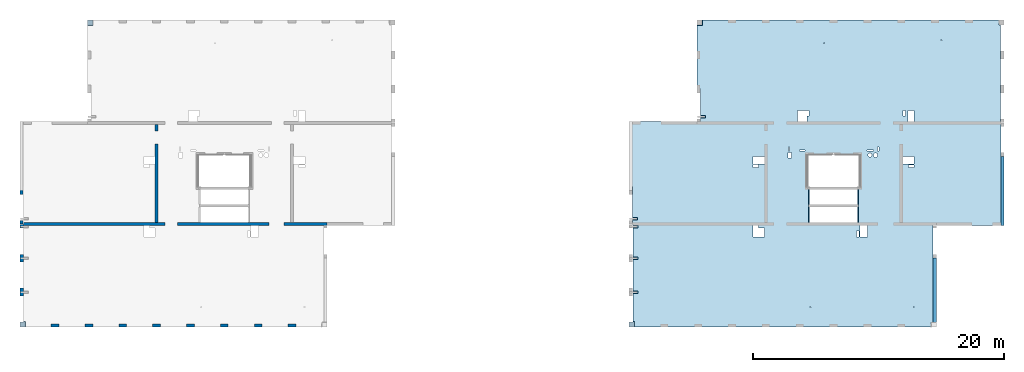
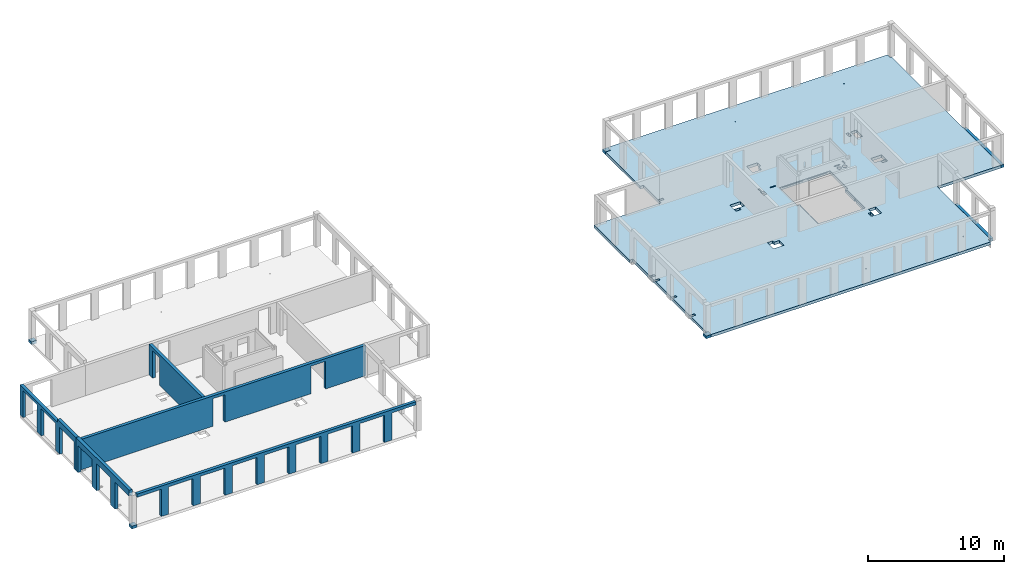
# One storey, part 2 of 8: 7 slabs, 5 walls, 55 openings.
"""IFC2X3 building model written with IfcOpenShell, lengths in millimetres."""

from ifc_helpers import new_model, entity, si_unit, converted_unit, derived_unit, direction, frame, frame_2d, origin, origin_2d_with_axis, place, context, subcontext, project, spatial, polyline, rectangle, circle, outline, extrude, material, layer, layer_set, layer_usage, type_object, element, save


model = new_model("IFC2X3")

# Units and contexts
model_context = context("Model", 3, precision=0.01, world=origin(), true_north=direction((6.12303176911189e-17, 1.0)))
body_context = subcontext(model_context, "Body", "Model", "MODEL_VIEW")
ifc_project = project(units=[si_unit("LENGTHUNIT", "METRE", prefix="MILLI"), si_unit("AREAUNIT", "SQUARE_METRE"), si_unit("VOLUMEUNIT", "CUBIC_METRE"), converted_unit("PLANEANGLEUNIT", "DEGREE", entity("IfcRatioMeasure", 0.0174532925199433), si_unit("PLANEANGLEUNIT", "RADIAN"), dimensions=[0, 0, 0, 0, 0, 0, 0]), si_unit("MASSUNIT", "GRAM", prefix="KILO"), derived_unit("MASSDENSITYUNIT", [(si_unit("MASSUNIT", "GRAM", prefix="KILO"), 1), (si_unit("LENGTHUNIT", "METRE"), -3)]), si_unit("TIMEUNIT", "SECOND"), si_unit("FREQUENCYUNIT", "HERTZ"), si_unit("THERMODYNAMICTEMPERATUREUNIT", "DEGREE_CELSIUS"), derived_unit("THERMALTRANSMITTANCEUNIT", [(si_unit("MASSUNIT", "GRAM", prefix="KILO"), 1), (si_unit("THERMODYNAMICTEMPERATUREUNIT", "KELVIN"), -1), (si_unit("TIMEUNIT", "SECOND"), -3)]), derived_unit("VOLUMETRICFLOWRATEUNIT", [(si_unit("LENGTHUNIT", "METRE"), 3), (si_unit("TIMEUNIT", "SECOND"), -1)]), si_unit("ELECTRICCURRENTUNIT", "AMPERE"), si_unit("ELECTRICVOLTAGEUNIT", "VOLT"), si_unit("POWERUNIT", "WATT"), si_unit("FORCEUNIT", "NEWTON", prefix="KILO"), si_unit("ILLUMINANCEUNIT", "LUX"), si_unit("LUMINOUSFLUXUNIT", "LUMEN"), si_unit("LUMINOUSINTENSITYUNIT", "CANDELA"), derived_unit("USERDEFINED", [(si_unit("MASSUNIT", "GRAM", prefix="KILO"), -1), (si_unit("LENGTHUNIT", "METRE"), -2), (si_unit("TIMEUNIT", "SECOND"), 3), (si_unit("LUMINOUSFLUXUNIT", "LUMEN"), 1)]), derived_unit("LINEARVELOCITYUNIT", [(si_unit("LENGTHUNIT", "METRE"), 1), (si_unit("TIMEUNIT", "SECOND"), -1)]), si_unit("PRESSUREUNIT", "PASCAL"), derived_unit("USERDEFINED", [(si_unit("LENGTHUNIT", "METRE"), -2), (si_unit("MASSUNIT", "GRAM", prefix="KILO"), 1), (si_unit("TIMEUNIT", "SECOND"), -2)])], contexts=[model_context])

# Site, building, storey
site_placement = place(None, origin())
site = spatial("IfcSite", under=ifc_project, at=site_placement, Name="Default", CompositionType="ELEMENT")
building_placement = place(site_placement, origin())
building = spatial("IfcBuilding", under=site, at=building_placement, Name="niet gebruiken", CompositionType="ELEMENT")
storey_placement = place(building_placement, frame((0.0, 0.0, 39330.0)))
storey = spatial("IfcBuildingStorey", under=building, at=storey_placement, Name="13 dertiende verdieping", CompositionType="ELEMENT", Elevation=39330.0)

# Slab, openings
ifc_material_1 = material(Name="NLRS_f2_beton ihwg")
ifc_layer_1 = layer(ifc_material_1, 250.0)
ifc_layer_set_1 = layer_set([ifc_layer_1], Name="Floor:NLRS_23.21_FL_beton ihwg d=250_gen")
ifc_layer_usage_1 = layer_usage(ifc_layer_set_1, "AXIS3", "POSITIVE", 0.0)
slab_1_placement = place(storey_placement, frame((75750.0, 28756.0, -340.0)))
slab_1 = element("IfcSlab", 1, at=slab_1_placement, inside=storey, material=ifc_layer_usage_1, Name="Floor:NLRS_23.21_FL_beton ihwg d=250_gen", ObjectType="Floor:NLRS_23.21_FL_beton ihwg d=250_gen", PredefinedType="FLOOR", context=body_context, shape_type="SweptSolid", body=[
    extrude(outline(polyline([(9119.99996701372, 12250.0), (-14540.0, 12250.0), (-14540.0, 11840.0), (-14680.0, 11840.0), (-14680.0, 4060.0), (-14700.0, 4060.0), (-14700.0, -4150.0), (-9300.0, -4150.0), (-9300.0, -11890.0), (-9140.0, -11890.0), (-9140.0, -12250.0), (14520.0, -12250.0), (14520.0, -11820.0), (14660.0, -11820.0), (14660.0, -4060.0), (14680.0, -4060.0), (14680.0, -1040.0), (14950.0, -1040.0), (14950.0, 4150.0), (9280.0, 4150.0), (9280.0, 6750.0), (9550.0, 6750.0), (9550.0, 11820.0), (9119.99996701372, 11820.0), (9119.99996701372, 12250.0)])), frame((14700.0, 12250.0, 250.0), z_axis=(0.0, 0.0, -1.0), x_axis=(-1.0, 0.0, 0.0)), (0.0, 0.0, 1.0), 249.999999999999),
])
opening_1_placement = place(storey_placement, frame((75750.0, 28756.0, -340.0)))
element("IfcOpeningElement", 2, at=opening_1_placement, cuts=slab_1, ObjectType="Opening", context=body_context, shape_type="SweptSolid", body=[
    extrude(circle(Radius=37.5, at=frame_2d((-7750.0, -10650.0), x_axis=(1.0, 0.0))), frame((14700.0, 12250.0, 250.0), z_axis=(0.0, 0.0, -1.0), x_axis=(-1.0, 0.0, 0.0)), (0.0, 0.0, 1.0), 249.999999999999),
])
opening_2_placement = place(storey_placement, frame((75750.0, 28756.0, -340.0)))
element("IfcOpeningElement", 3, at=opening_2_placement, cuts=slab_1, ObjectType="Opening", context=body_context, shape_type="SweptSolid", body=[
    extrude(circle(Radius=37.5, at=frame_2d((-9950.0, 10650.0), x_axis=(1.0, 0.0))), frame((14700.0, 12250.0, 250.0), z_axis=(0.0, 0.0, -1.0), x_axis=(-1.0, 0.0, 0.0)), (0.0, 0.0, 1.0), 249.999999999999),
])
opening_3_placement = place(storey_placement, frame((75750.0, 28756.0, -340.0)))
element("IfcOpeningElement", 4, at=opening_3_placement, cuts=slab_1, ObjectType="Opening", context=body_context, shape_type="SweptSolid", body=[
    extrude(circle(Radius=37.5, at=frame_2d((-600.0, 10400.0), x_axis=(1.0, 0.0))), frame((14700.0, 12250.0, 250.0), z_axis=(0.0, 0.0, -1.0), x_axis=(-1.0, 0.0, 0.0)), (0.0, 0.0, 1.0), 249.999999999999),
])
opening_4_placement = place(storey_placement, frame((75750.0, 28756.0, -340.0)))
element("IfcOpeningElement", 5, at=opening_4_placement, cuts=slab_1, ObjectType="Opening", context=body_context, shape_type="SweptSolid", body=[
    extrude(circle(Radius=37.5, at=frame_2d((500.0, -10650.0), x_axis=(1.0, 0.0))), frame((14700.0, 12250.0, 250.0), z_axis=(0.0, 0.0, -1.0), x_axis=(-1.0, 0.0, 0.0)), (0.0, 0.0, 1.0), 249.999999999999),
])
opening_5_placement = place(slab_1_placement, origin())
element("IfcOpeningElement", 6, at=opening_5_placement, cuts=slab_1, ObjectType="Opening", context=body_context, shape_type="SweptSolid", body=[
    extrude(rectangle(XDim=109.999999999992, YDim=1220.0, at=origin_2d_with_axis()), frame((14094.9999671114, 10380.0, 210.0)), (0.0, 0.0, 1.0), 39.9999999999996),
])
opening_6_placement = place(slab_1_placement, origin())
element("IfcOpeningElement", 7, at=opening_6_placement, cuts=slab_1, ObjectType="Opening", context=body_context, shape_type="SweptSolid", body=[
    extrude(rectangle(XDim=109.999999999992, YDim=1220.0, at=origin_2d_with_axis()), frame((18005.0, 10380.0, 210.0)), (0.0, 0.0, 1.0), 39.9999999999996),
])
opening_7_placement = place(slab_1_placement, origin())
element("IfcOpeningElement", 8, at=opening_7_placement, cuts=slab_1, ObjectType="Opening", context=body_context, shape_type="SweptSolid", body=[
    extrude(rectangle(XDim=109.999999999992, YDim=1220.0, at=origin_2d_with_axis()), frame((18005.0, 8960.0, 210.0)), (0.0, 0.0, 1.0), 39.9999999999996),
])
opening_8_placement = place(slab_1_placement, origin())
element("IfcOpeningElement", 9, at=opening_8_placement, cuts=slab_1, ObjectType="Opening", context=body_context, shape_type="SweptSolid", body=[
    extrude(rectangle(XDim=109.999999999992, YDim=1220.0, at=origin_2d_with_axis()), frame((14094.9999671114, 8960.0, 210.0)), (0.0, 0.0, 1.0), 39.9999999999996),
])
opening_9_placement = place(slab_1_placement, origin())
element("IfcOpeningElement", 10, at=opening_9_placement, cuts=slab_1, ObjectType="Opening", context=body_context, shape_type="SweptSolid", body=[
    extrude(rectangle(XDim=400.000000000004, YDim=200.000000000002, at=origin_2d_with_axis()), frame((220.0, 8630.0, 220.0)), (0.0, 0.0, 1.0), 30.0000000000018),
])
opening_10_placement = place(slab_1_placement, origin())
element("IfcOpeningElement", 11, at=opening_10_placement, cuts=slab_1, ObjectType="Opening", context=body_context, shape_type="SweptSolid", body=[
    extrude(rectangle(XDim=200.000000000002, YDim=400.000000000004, at=origin_2d_with_axis()), frame((240.0, 8000.0, 220.0), z_axis=(0.0, 0.0, 1.0), x_axis=(0.0, -1.0, 0.0)), (0.0, 0.0, 1.0), 30.0000000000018),
])
opening_11_placement = place(slab_1_placement, origin())
element("IfcOpeningElement", 12, at=opening_11_placement, cuts=slab_1, ObjectType="Opening", context=body_context, shape_type="SweptSolid", body=[
    extrude(rectangle(XDim=200.000000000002, YDim=400.000000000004, at=origin_2d_with_axis()), frame((240.0, 5500.0, 220.0), z_axis=(0.0, 0.0, 1.0), x_axis=(0.0, -1.0, 0.0)), (0.0, 0.0, 1.0), 30.0000000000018),
])
opening_12_placement = place(slab_1_placement, origin())
element("IfcOpeningElement", 13, at=opening_12_placement, cuts=slab_1, ObjectType="Opening", context=body_context, shape_type="SweptSolid", body=[
    extrude(rectangle(XDim=200.000000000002, YDim=400.000000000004, at=origin_2d_with_axis()), frame((240.0, 2800.0, 220.0), z_axis=(0.0, 0.0, 1.0), x_axis=(0.0, -1.0, 0.0)), (0.0, 0.0, 1.0), 30.0000000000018),
])
opening_13_placement = place(slab_1_placement, origin())
element("IfcOpeningElement", 14, at=opening_13_placement, cuts=slab_1, ObjectType="Opening", context=body_context, shape_type="SweptSolid", body=[
    extrude(rectangle(XDim=399.999999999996, YDim=199.999999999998, at=origin_2d_with_axis()), frame((5620.0, 16765.0, 220.0)), (0.0, 0.0, 1.0), 30.0000000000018),
])
opening_14_placement = place(slab_1_placement, origin())
element("IfcOpeningElement", 15, at=opening_14_placement, cuts=slab_1, ObjectType="Opening", context=body_context, shape_type="SweptSolid", body=[
    extrude(rectangle(XDim=900.000000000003, YDim=730.000000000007, at=origin_2d_with_axis()), frame((13550.0, 16850.0, 0.0), z_axis=(0.0, 0.0, 1.0), x_axis=(0.0, 1.0, 0.0)), (0.0, 0.0, 1.0), 249.999999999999),
])
opening_15_placement = place(slab_1_placement, origin())
element("IfcOpeningElement", 16, at=opening_15_placement, cuts=slab_1, ObjectType="Opening", context=body_context, shape_type="SweptSolid", body=[
    extrude(rectangle(XDim=169.999999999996, YDim=450.000000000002, at=origin_2d_with_axis()), frame((14000.0, 17075.0, 0.0), z_axis=(0.0, 0.0, 1.0), x_axis=(-1.0, 0.0, 0.0)), (0.0, 0.0, 1.0), 249.999999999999),
])
opening_16_placement = place(slab_1_placement, origin())
element("IfcOpeningElement", 17, at=opening_16_placement, cuts=slab_1, ObjectType="Opening", context=body_context, shape_type="SweptSolid", body=[
    extrude(rectangle(XDim=900.000000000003, YDim=700.000000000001, at=origin_2d_with_axis()), frame((10075.0, 7550.0, 0.0), z_axis=(0.0, 0.0, 1.0), x_axis=(-1.0, 0.0, 0.0)), (0.0, 0.0, 1.0), 249.999999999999),
])
opening_17_placement = place(slab_1_placement, origin())
element("IfcOpeningElement", 18, at=opening_17_placement, cuts=slab_1, ObjectType="Opening", context=body_context, shape_type="SweptSolid", body=[
    extrude(rectangle(XDim=200.000000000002, YDim=450.000000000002, at=origin_2d_with_axis()), frame((9850.0, 8000.0, 0.0), z_axis=(0.0, 0.0, 1.0), x_axis=(0.0, -1.0, 0.0)), (0.0, 0.0, 1.0), 249.999999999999),
])
opening_18_placement = place(slab_1_placement, origin())
element("IfcOpeningElement", 19, at=opening_18_placement, cuts=slab_1, ObjectType="Opening", context=body_context, shape_type="SweptSolid", body=[
    extrude(rectangle(XDim=900.000000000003, YDim=600.000000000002, at=origin_2d_with_axis()), frame((10075.0, 13330.0, 0.0), z_axis=(0.0, 0.0, 1.0), x_axis=(-1.0, 0.0, 0.0)), (0.0, 0.0, 1.0), 249.999999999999),
])
opening_19_placement = place(slab_1_placement, origin())
element("IfcOpeningElement", 20, at=opening_19_placement, cuts=slab_1, ObjectType="Opening", context=body_context, shape_type="SweptSolid", body=[
    extrude(rectangle(XDim=900.000000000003, YDim=500.000000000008, at=origin_2d_with_axis()), frame((22225.0, 16850.0, 0.0), z_axis=(0.0, 0.0, 1.0), x_axis=(0.0, 1.0, 0.0)), (0.0, 0.0, 1.0), 249.999999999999),
])
opening_20_placement = place(slab_1_placement, origin())
element("IfcOpeningElement", 21, at=opening_20_placement, cuts=slab_1, ObjectType="Opening", context=body_context, shape_type="SweptSolid", body=[
    extrude(rectangle(XDim=899.999999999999, YDim=600.000000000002, at=origin_2d_with_axis()), frame((18479.9818996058, 7650.0, 0.0), z_axis=(0.0, 0.0, 1.0), x_axis=(0.0, 1.0, 0.0)), (0.0, 0.0, 1.0), 249.999999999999),
])
opening_21_placement = place(slab_1_placement, origin())
element("IfcOpeningElement", 22, at=opening_21_placement, cuts=slab_1, ObjectType="Opening", context=body_context, shape_type="SweptSolid", body=[
    extrude(rectangle(XDim=900.000000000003, YDim=600.000000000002, at=origin_2d_with_axis()), frame((22025.0, 13330.0, 0.0), z_axis=(0.0, 0.0, 1.0), x_axis=(-1.0, 0.0, 0.0)), (0.0, 0.0, 1.0), 249.999999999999),
])
opening_22_placement = place(slab_1_placement, origin())
element("IfcOpeningElement", 23, at=opening_22_placement, cuts=slab_1, ObjectType="Opening", context=body_context, shape_type="SweptSolid", body=[
    extrude(rectangle(XDim=1760.00000000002, YDim=23.0000000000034, at=origin_2d_with_axis()), frame((14994.9998491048, 13751.5, 180.0)), (0.0, 0.0, 1.0), 40.0000000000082),
])
opening_23_placement = place(slab_1_placement, origin())
element("IfcOpeningElement", 24, at=opening_23_placement, cuts=slab_1, ObjectType="Opening", context=body_context, shape_type="SweptSolid", body=[
    extrude(rectangle(XDim=1760.0, YDim=23.0000000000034, at=origin_2d_with_axis()), frame((17104.999849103, 13751.5, 180.0)), (0.0, 0.0, 1.0), 40.0000000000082),
])
opening_24_placement = place(slab_1_placement, origin())
element("IfcOpeningElement", 25, at=opening_24_placement, cuts=slab_1, ObjectType="Opening", context=body_context, shape_type="SweptSolid", body=[
    extrude(rectangle(XDim=99.9999999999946, YDim=340.000000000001, at=origin_2d_with_axis()), frame((19615.0, 14210.0, 0.0), z_axis=(0.0, 0.0, 1.0), x_axis=(-1.0, 0.0, 0.0)), (0.0, 0.0, 1.0), 249.999999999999),
])
opening_25_placement = place(slab_1_placement, origin())
element("IfcOpeningElement", 26, at=opening_25_placement, cuts=slab_1, ObjectType="Opening", context=body_context, shape_type="SweptSolid", body=[
    extrude(rectangle(XDim=100.000000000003, YDim=490.00000000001, at=origin_2d_with_axis()), frame((18975.0, 14090.0, 0.0), z_axis=(0.0, 0.0, 1.0), x_axis=(0.0, -1.0, 0.0)), (0.0, 0.0, 1.0), 249.999999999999),
])
opening_26_placement = place(slab_1_placement, origin())
element("IfcOpeningElement", 27, at=opening_26_placement, cuts=slab_1, ObjectType="Opening", context=body_context, shape_type="SweptSolid", body=[
    extrude(rectangle(XDim=100.000000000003, YDim=440.000000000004, at=origin_2d_with_axis()), frame((13555.0, 14090.0, 0.0), z_axis=(0.0, 0.0, 1.0), x_axis=(0.0, -1.0, 0.0)), (0.0, 0.0, 1.0), 249.999999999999),
])
opening_27_placement = place(slab_1_placement, origin())
element("IfcOpeningElement", 28, at=opening_27_placement, cuts=slab_1, ObjectType="Opening", context=body_context, shape_type="SweptSolid", body=[
    extrude(rectangle(XDim=99.9999999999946, YDim=340.000000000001, at=origin_2d_with_axis()), frame((12505.0, 14210.0, 0.0), z_axis=(0.0, 0.0, 1.0), x_axis=(-1.0, 0.0, 0.0)), (0.0, 0.0, 1.0), 249.999999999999),
])
opening_28_placement = place(slab_1_placement, origin())
element("IfcOpeningElement", 29, at=opening_28_placement, cuts=slab_1, ObjectType="Opening", context=body_context, shape_type="SweptSolid", body=[
    extrude(rectangle(XDim=230.0, YDim=450.000000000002, at=origin_2d_with_axis()), frame((9850.00008659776, 12845.0002270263, 0.0), z_axis=(0.0, 0.0, 1.0), x_axis=(0.0, -1.0, 0.0)), (0.0, 0.0, 1.0), 249.999999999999),
])
opening_29_placement = place(slab_1_placement, origin())
element("IfcOpeningElement", 30, at=opening_29_placement, cuts=slab_1, ObjectType="Opening", context=body_context, shape_type="SweptSolid", body=[
    extrude(rectangle(XDim=220.000000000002, YDim=450.000000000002, at=origin_2d_with_axis()), frame((21685.0, 17075.0, 0.0), z_axis=(0.0, 0.0, 1.0), x_axis=(-1.0, 0.0, 0.0)), (0.0, 0.0, 1.0), 249.999999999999),
])
opening_30_placement = place(slab_1_placement, origin())
element("IfcOpeningElement", 31, at=opening_30_placement, cuts=slab_1, ObjectType="Opening", context=body_context, shape_type="SweptSolid", body=[
    extrude(rectangle(XDim=220.000000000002, YDim=450.000000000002, at=origin_2d_with_axis()), frame((22250.0, 12840.0, 0.0), z_axis=(0.0, 0.0, 1.0), x_axis=(0.0, -1.0, 0.0)), (0.0, 0.0, 1.0), 249.999999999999),
])
opening_31_placement = place(slab_1_placement, origin())
element("IfcOpeningElement", 32, at=opening_31_placement, cuts=slab_1, ObjectType="Opening", context=body_context, shape_type="SweptSolid", body=[
    extrude(rectangle(XDim=220.000000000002, YDim=450.000000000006, at=origin_2d_with_axis()), frame((17990.0, 7425.0, 0.0)), (0.0, 0.0, 1.0), 249.999999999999),
])
opening_32_placement = place(slab_1_placement, origin())
element("IfcOpeningElement", 33, at=opening_32_placement, cuts=slab_1, ObjectType="Opening", context=body_context, shape_type="SweptSolid", body=[
    extrude(rectangle(XDim=275.000000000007, YDim=440.000000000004, at=origin_2d_with_axis()), frame((12557.4999999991, 13720.0, 0.0)), (0.0, 0.0, 1.0), 249.999999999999),
])
opening_33_placement = place(slab_1_placement, origin())
element("IfcOpeningElement", 34, at=opening_33_placement, cuts=slab_1, ObjectType="Opening", context=body_context, shape_type="SweptSolid", body=[
    extrude(circle(Radius=157.5, at=origin_2d_with_axis()), frame((18950.0, 13720.0, 0.0)), (0.0, 0.0, 1.0), 249.999999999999),
])
opening_34_placement = place(slab_1_placement, origin())
element("IfcOpeningElement", 35, at=opening_34_placement, cuts=slab_1, ObjectType="Opening", context=body_context, shape_type="SweptSolid", body=[
    extrude(circle(Radius=177.5, at=origin_2d_with_axis()), frame((19400.0, 13720.0, 0.0)), (0.0, 0.0, 1.0), 249.999999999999),
])
opening_35_placement = place(slab_1_placement, frame((16050.0, 10378.7499999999, 250.0)))
element("IfcOpeningElement", 36, at=opening_35_placement, cuts=slab_1, Name="Floor:NLRS_23.21_FL_beton ihwg d=250_gen:2", ObjectType="Opening", context=body_context, shape_type="SweptSolid", body=[
    extrude(outline(polyline([(-1899.99998355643, -2028.75), (1900.00001644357, -2028.75), (1900.00001644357, -808.749999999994), (1999.99998355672, -808.749999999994), (1999.99998355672, -608.749999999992), (1900.00001644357, -608.749999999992), (1900.00001644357, 751.250000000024), (2134.99998355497, 751.250000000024), (2134.99998355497, 3361.24999999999), (-2135.0000164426, 3361.24999999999), (-2135.0000164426, 751.250000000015), (-1899.99998355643, 751.250000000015), (-1899.99998355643, -608.750000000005), (-2000.00001644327, -608.750000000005), (-2000.00001644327, -808.750000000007), (-1899.99998355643, -808.750000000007), (-1899.99998355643, -2028.75)])), frame((0.0, 0.0, 0.0), z_axis=(0.0, 0.0, -1.0), x_axis=(-1.0, 0.0, 0.0)), (0.0, 0.0, 1.0), 249.999999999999),
])

# Slabs
ifc_layer_usage_2 = layer_usage(ifc_layer_set_1, "AXIS3", "POSITIVE", 0.0)
slab_2_placement = place(storey_placement, origin())
element("IfcSlab", 37, at=slab_2_placement, inside=storey, material=ifc_layer_usage_2, Name="Floor:NLRS_23.21_FL_beton ihwg d=250_gen", ObjectType="Floor:NLRS_23.21_FL_beton ihwg d=250_gen", PredefinedType="FLOOR", context=body_context, shape_type="SweptSolid", body=[
    extrude(rectangle(XDim=5140.00000000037, YDim=250.000065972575, at=frame_2d((-2.27373675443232e-12, 0.0), x_axis=(1.0, 0.0))), frame((99875.0, 31686.0, -90.0), z_axis=(0.0, 0.0, -1.0), x_axis=(0.0, 1.0, 0.0)), (0.0, 0.0, 1.0), 249.999999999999),
])
ifc_layer_usage_3 = layer_usage(ifc_layer_set_1, "AXIS3", "POSITIVE", 0.0)
slab_3_placement = place(storey_placement, origin())
element("IfcSlab", 38, at=slab_3_placement, inside=storey, material=ifc_layer_usage_3, Name="Floor:NLRS_23.21_FL_beton ihwg d=250_gen", ObjectType="Floor:NLRS_23.21_FL_beton ihwg d=250_gen", PredefinedType="FLOOR", context=body_context, shape_type="SweptSolid", body=[
    extrude(rectangle(XDim=5500.00000000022, YDim=250.000000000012, at=origin_2d_with_axis()), frame((105275.0, 39606.0, -90.0), z_axis=(0.0, 0.0, -1.0), x_axis=(0.0, 1.0, 0.0)), (0.0, 0.0, 1.0), 249.999999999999),
])
ifc_layer_usage_4 = layer_usage(ifc_layer_set_1, "AXIS3", "POSITIVE", 0.0)
slab_4_placement = place(storey_placement, origin())
element("IfcSlab", 39, at=slab_4_placement, inside=storey, material=ifc_layer_usage_4, Name="Floor:NLRS_23.21_FL_beton ihwg d=250_gen", ObjectType="Floor:NLRS_23.21_FL_beton ihwg d=250_gen", PredefinedType="FLOOR", context=body_context, shape_type="SweptSolid", body=[
    extrude(outline(polyline([(-280.0, -240.0), (130.0, -240.0), (130.0, 50.0), (150.0, 50.0), (150.0, 190.0), (-280.0, 190.0), (-280.0, -240.0)])), frame((75740.0, 29036.0, -90.0), z_axis=(0.0, 0.0, -1.0), x_axis=(0.0, 1.0, 0.0)), (0.0, 0.0, 1.0), 249.999999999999),
])
ifc_layer_usage_5 = layer_usage(ifc_layer_set_1, "AXIS3", "POSITIVE", 0.0)
slab_5_placement = place(storey_placement, origin())
element("IfcSlab", 40, at=slab_5_placement, inside=storey, material=ifc_layer_usage_5, Name="Floor:NLRS_23.21_FL_beton ihwg d=250_gen", ObjectType="Floor:NLRS_23.21_FL_beton ihwg d=250_gen", PredefinedType="FLOOR", context=body_context, shape_type="SweptSolid", body=[
    extrude(outline(polyline([(-280.0, -240.0), (130.0, -240.0), (130.0, 50.0), (150.0, 50.0), (150.0, 190.0), (-280.0, 190.0), (-280.0, -240.0)])), frame((27140.0, 29036.0, -90.0), z_axis=(0.0, 0.0, -1.0), x_axis=(0.0, 1.0, 0.0)), (0.0, 0.0, 1.0), 249.999999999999),
])
ifc_layer_usage_6 = layer_usage(ifc_layer_set_1, "AXIS3", "POSITIVE", 0.0)
slab_6_placement = place(storey_placement, origin())
element("IfcSlab", 41, at=slab_6_placement, inside=storey, material=ifc_layer_usage_6, Name="Floor:NLRS_23.21_FL_beton ihwg d=250_gen", ObjectType="Floor:NLRS_23.21_FL_beton ihwg d=250_gen", PredefinedType="FLOOR", context=body_context, shape_type="SweptSolid", body=[
    extrude(rectangle(XDim=429.999999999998, YDim=430.000032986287, at=frame_2d((4.33431068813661e-12, 0.0), x_axis=(1.0, 0.0))), frame((81115.0, 53041.0, -90.0), z_axis=(0.0, 0.0, -1.0), x_axis=(0.0, 1.0, 0.0)), (0.0, 0.0, 1.0), 249.999999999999),
])
ifc_layer_usage_7 = layer_usage(ifc_layer_set_1, "AXIS3", "POSITIVE", 0.0)
slab_7_placement = place(storey_placement, origin())
element("IfcSlab", 42, at=slab_7_placement, inside=storey, material=ifc_layer_usage_7, Name="Floor:NLRS_23.21_FL_beton ihwg d=250_gen", ObjectType="Floor:NLRS_23.21_FL_beton ihwg d=250_gen", PredefinedType="FLOOR", context=body_context, shape_type="SweptSolid", body=[
    extrude(rectangle(XDim=429.999999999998, YDim=430.000032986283, at=frame_2d((4.33431068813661e-12, 2.1600499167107e-12), x_axis=(1.0, 0.0))), frame((32515.0, 53041.0, -90.0), z_axis=(0.0, 0.0, -1.0), x_axis=(0.0, 1.0, 0.0)), (0.0, 0.0, 1.0), 249.999999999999),
])

# Wall, openings
ifc_layer_2 = layer(ifc_material_1, 250.0)
ifc_layer_set_2 = layer_set([ifc_layer_2], Name="Basic Wall:NLRS_22.21_WA_beton ihwg d=250_gen")
ifc_layer_usage_8 = layer_usage(ifc_layer_set_2, "AXIS2", "NEGATIVE", 125.0)
wall_type_1 = type_object("IfcWallType", Name="Basic Wall:NLRS_22.21_WA_beton ihwg d=250_gen", PredefinedType="STANDARD", material=ifc_layer_set_2)
wall_1_placement = place(storey_placement, frame((27170.0, 36981.0, -90.0)))
wall_1 = element("IfcWallStandardCase", 43, at=wall_1_placement, inside=storey, type_object=wall_type_1, material=ifc_layer_usage_8, Name="Basic Wall:NLRS_22.21_WA_beton ihwg d=250_gen", ObjectType="Basic Wall:NLRS_22.21_WA_beton ihwg d=250_gen", context=body_context, shape_type="SweptSolid", body=[
    extrude(rectangle(XDim=24230.0000000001, YDim=250.000000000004, at=frame_2d((12115.0, 0.0), x_axis=(-1.0, 0.0))), origin(), (0.0, 0.0, 1.0), 2719.99999999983),
])
opening_36_placement = place(wall_1_placement, origin())
element("IfcOpeningElement", 44, at=opening_36_placement, cuts=wall_1, Name="Basic Wall:NLRS_22.21_WA_beton ihwg d=250_gen", ObjectType="Opening", context=body_context, shape_type="SweptSolid", body=[
    extrude(rectangle(XDim=2470.0, YDim=1225.0, at=frame_2d((0.0, 4.43378667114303e-12), x_axis=(0.0, 1.0))), frame((20192.500000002, -1399.0, 1235.0), z_axis=(0.0, 1.0, 0.0), x_axis=(-1.0, 0.0, 0.0)), (0.0, 0.0, 1.0), 3048.0),
])
opening_37_placement = place(wall_1_placement, origin())
element("IfcOpeningElement", 45, at=opening_37_placement, cuts=wall_1, Name="Basic Wall:NLRS_22.21_WA_beton ihwg d=250_gen", ObjectType="Opening", context=body_context, shape_type="SweptSolid", body=[
    extrude(rectangle(XDim=2470.0, YDim=1006.0, at=frame_2d((2.1600499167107e-12, -4.43378667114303e-12), x_axis=(0.0, 1.0))), frame((11782.0, -1399.0, 1235.0), z_axis=(0.0, 1.0, 0.0), x_axis=(-1.0, 0.0, 0.0)), (0.0, 0.0, 1.0), 3048.0),
])
opening_38_placement = place(wall_1_placement, origin())
element("IfcOpeningElement", 46, at=opening_38_placement, cuts=wall_1, Name="Basic Wall:NLRS_22.21_WA_beton ihwg d=250_gen", ObjectType="Recess", context=body_context, shape_type="SweptSolid", body=[
    extrude(rectangle(XDim=55000.0, YDim=20.0000000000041, at=frame_2d((0.0, -2.16626716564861e-12), x_axis=(1.0, 0.0))), frame((10.0, -140.0, 770.0), z_axis=(0.0, 1.0, 0.0), x_axis=(0.0, 0.0, -1.0)), (0.0, 0.0, 1.0), 124.999999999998),
])

# Wall, opening
ifc_layer_usage_9 = layer_usage(ifc_layer_set_2, "AXIS2", "NEGATIVE", 125.0)
wall_2_placement = place(storey_placement, frame((37800.0, 44906.0, -90.0), z_axis=(0.0, 0.0, 1.0), x_axis=(0.0, -1.0, 0.0)))
wall_2 = element("IfcWallStandardCase", 47, at=wall_2_placement, inside=storey, type_object=wall_type_1, material=ifc_layer_usage_9, Name="Basic Wall:NLRS_22.21_WA_beton ihwg d=250_gen", ObjectType="Basic Wall:NLRS_22.21_WA_beton ihwg d=250_gen", context=body_context, shape_type="SweptSolid", body=[
    extrude(rectangle(XDim=7799.99999999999, YDim=250.000000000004, at=frame_2d((3900.0, 0.0), x_axis=(-1.0, 0.0))), origin(), (0.0, 0.0, 1.0), 2719.99999999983),
])
opening_39_placement = place(wall_2_placement, origin())
element("IfcOpeningElement", 48, at=opening_39_placement, cuts=wall_2, Name="Basic Wall:NLRS_22.21_WA_beton ihwg d=250_gen", ObjectType="Opening", context=body_context, shape_type="SweptSolid", body=[
    extrude(rectangle(XDim=2470.0, YDim=1006.0, at=frame_2d((-4.43378667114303e-12, 0.0), x_axis=(1.0, 0.0))), frame((1027.0, -1649.0, 1235.0), z_axis=(0.0, 1.0, 0.0), x_axis=(0.0, 0.0, 1.0)), (0.0, 0.0, 1.0), 3048.0),
])

# Wall, openings
ifc_material_2 = material(Name="NLRS_f2_beton prefab")
ifc_layer_3 = layer(ifc_material_2, 250.0)
ifc_layer_set_3 = layer_set([ifc_layer_3], Name="Basic Wall:NLRS_21.21_WA_beton prefab d=250_gen")
ifc_layer_usage_10 = layer_usage(ifc_layer_set_3, "AXIS2", "NEGATIVE", 125.0)
wall_type_2 = type_object("IfcWallType", Name="Basic Wall:NLRS_21.21_WA_beton prefab d=250_gen", PredefinedType="STANDARD", material=ifc_layer_set_3)
wall_3_placement = place(storey_placement, frame((27025.0, 45156.0, -70.0), z_axis=(0.0, 0.0, 1.0), x_axis=(0.0, -1.0, 0.0)))
wall_3 = element("IfcWallStandardCase", 49, at=wall_3_placement, inside=storey, type_object=wall_type_2, material=ifc_layer_usage_10, Name="Basic Wall:NLRS_21.21_WA_beton prefab d=250_gen", ObjectType="Basic Wall:NLRS_21.21_WA_beton prefab d=250_gen", context=body_context, shape_type="SweptSolid", body=[
    extrude(rectangle(XDim=8189.99999999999, YDim=250.000000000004, at=frame_2d((4095.0, 0.0), x_axis=(-1.0, 0.0))), origin(), (0.0, 0.0, 1.0), 2949.99999999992),
])
opening_40_placement = place(wall_3_placement, origin())
element("IfcOpeningElement", 50, at=opening_40_placement, cuts=wall_3, Name="Basic Wall:NLRS_21.21_WA_beton prefab d=250_gen", ObjectType="Opening", context=body_context, shape_type="SweptSolid", body=[
    extrude(rectangle(XDim=2420.0, YDim=2080.0, at=frame_2d((0.0, 0.0), x_axis=(0.0, 1.0))), frame((1450.0, -1399.0, 1210.0), z_axis=(0.0, 1.0, 0.0), x_axis=(-1.0, 0.0, 0.0)), (0.0, 0.0, 1.0), 3048.0),
])
opening_41_placement = place(wall_3_placement, origin())
element("IfcOpeningElement", 51, at=opening_41_placement, cuts=wall_3, Name="Basic Wall:NLRS_21.21_WA_beton prefab d=250_gen", ObjectType="Opening", context=body_context, shape_type="SweptSolid", body=[
    extrude(rectangle(XDim=2420.0, YDim=2080.0, at=frame_2d((0.0, 0.0), x_axis=(0.0, 1.0))), frame((4150.0, -1399.0, 1210.0), z_axis=(0.0, 1.0, 0.0), x_axis=(-1.0, 0.0, 0.0)), (0.0, 0.0, 1.0), 3048.0),
])
opening_42_placement = place(wall_3_placement, origin())
element("IfcOpeningElement", 52, at=opening_42_placement, cuts=wall_3, Name="Basic Wall:NLRS_21.21_WA_beton prefab d=250_gen", ObjectType="Opening", context=body_context, shape_type="SweptSolid", body=[
    extrude(rectangle(XDim=2420.0, YDim=2080.0, at=frame_2d((0.0, 0.0), x_axis=(0.0, 1.0))), frame((6850.0, -1399.0, 1210.0), z_axis=(0.0, 1.0, 0.0), x_axis=(-1.0, 0.0, 0.0)), (0.0, 0.0, 1.0), 3048.0),
])
opening_43_placement = place(wall_3_placement, origin())
element("IfcOpeningElement", 53, at=opening_43_placement, cuts=wall_3, Name="Basic Wall:NLRS_21.21_WA_beton prefab d=250_gen", ObjectType="Opening", context=body_context, shape_type="SweptSolid", body=[
    extrude(rectangle(XDim=250.000000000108, YDim=5499.99999999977, at=frame_2d((0.0, -4.32720526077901e-12), x_axis=(0.0, 1.0))), frame((2750.0, 125.0, 2825.0), z_axis=(0.0, -1.0, 0.0), x_axis=(-1.0, 0.0, 0.0)), (0.0, 0.0, 1.0), 250.0),
])

ifc_layer_4 = layer(ifc_material_1, 250.0)
ifc_layer_set_4 = layer_set([ifc_layer_4], Name="Basic Wall:NLRS_21.21_WA_beton ihwg d=250_gen")
ifc_layer_usage_11 = layer_usage(ifc_layer_set_4, "AXIS2", "NEGATIVE", 125.0)
wall_type_3 = type_object("IfcWallType", Name="Basic Wall:NLRS_21.21_WA_beton ihwg d=250_gen", PredefinedType="STANDARD", material=ifc_layer_set_4)
wall_4_placement = place(storey_placement, frame((27330.0, 28881.0, -90.0)))
wall_4 = element("IfcWallStandardCase", 54, at=wall_4_placement, inside=storey, type_object=wall_type_3, material=ifc_layer_usage_11, Name="Basic Wall:NLRS_21.21_WA_beton ihwg d=250_gen", ObjectType="Basic Wall:NLRS_21.21_WA_beton ihwg d=250_gen", context=body_context, shape_type="SweptSolid", body=[
    extrude(rectangle(XDim=23640.0000000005, YDim=250.000000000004, at=frame_2d((11820.0000000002, -8.66862137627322e-13), x_axis=(-1.0, 0.0))), origin(), (0.0, 0.0, 1.0), 2720.00000000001),
])
opening_44_placement = place(wall_4_placement, origin())
element("IfcOpeningElement", 55, at=opening_44_placement, cuts=wall_4, Name="Basic Wall:NLRS_21.21_WA_beton ihwg d=250_gen", ObjectType="Opening", context=body_context, shape_type="SweptSolid", body=[
    extrude(rectangle(XDim=2440.0, YDim=2080.0, at=frame_2d((0.0, 0.0), x_axis=(0.0, 1.0))), frame((22620.0, -1399.0, 1220.0), z_axis=(0.0, 1.0, 0.0), x_axis=(-1.0, 0.0, 0.0)), (0.0, 0.0, 1.0), 3048.0),
])
opening_45_placement = place(wall_4_placement, origin())
element("IfcOpeningElement", 56, at=opening_45_placement, cuts=wall_4, Name="Basic Wall:NLRS_21.21_WA_beton ihwg d=250_gen", ObjectType="Opening", context=body_context, shape_type="SweptSolid", body=[
    extrude(rectangle(XDim=2440.0, YDim=2080.0, at=frame_2d((0.0, 0.0), x_axis=(0.0, 1.0))), frame((19920.0, -1399.0, 1220.0), z_axis=(0.0, 1.0, 0.0), x_axis=(-1.0, 0.0, 0.0)), (0.0, 0.0, 1.0), 3048.0),
])
opening_46_placement = place(wall_4_placement, origin())
element("IfcOpeningElement", 57, at=opening_46_placement, cuts=wall_4, Name="Basic Wall:NLRS_21.21_WA_beton ihwg d=250_gen", ObjectType="Opening", context=body_context, shape_type="SweptSolid", body=[
    extrude(rectangle(XDim=2440.0, YDim=2080.0, at=frame_2d((0.0, 0.0), x_axis=(0.0, 1.0))), frame((17220.0, -1399.0, 1220.0), z_axis=(0.0, 1.0, 0.0), x_axis=(-1.0, 0.0, 0.0)), (0.0, 0.0, 1.0), 3048.0),
])
opening_47_placement = place(wall_4_placement, origin())
element("IfcOpeningElement", 58, at=opening_47_placement, cuts=wall_4, Name="Basic Wall:NLRS_21.21_WA_beton ihwg d=250_gen", ObjectType="Opening", context=body_context, shape_type="SweptSolid", body=[
    extrude(rectangle(XDim=2440.0, YDim=2080.0, at=frame_2d((0.0, 0.0), x_axis=(0.0, 1.0))), frame((14520.0, -1399.0, 1220.0), z_axis=(0.0, 1.0, 0.0), x_axis=(-1.0, 0.0, 0.0)), (0.0, 0.0, 1.0), 3048.0),
])
opening_48_placement = place(wall_4_placement, origin())
element("IfcOpeningElement", 59, at=opening_48_placement, cuts=wall_4, Name="Basic Wall:NLRS_21.21_WA_beton ihwg d=250_gen", ObjectType="Opening", context=body_context, shape_type="SweptSolid", body=[
    extrude(rectangle(XDim=2440.0, YDim=2080.0, at=frame_2d((-4.32009983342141e-12, 0.0), x_axis=(0.0, 1.0))), frame((11820.0, -1399.0, 1220.0), z_axis=(0.0, 1.0, 0.0), x_axis=(-1.0, 0.0, 0.0)), (0.0, 0.0, 1.0), 3048.0),
])
opening_49_placement = place(wall_4_placement, origin())
element("IfcOpeningElement", 60, at=opening_49_placement, cuts=wall_4, Name="Basic Wall:NLRS_21.21_WA_beton ihwg d=250_gen", ObjectType="Opening", context=body_context, shape_type="SweptSolid", body=[
    extrude(rectangle(XDim=2440.0, YDim=2080.0, at=frame_2d((-2.1600499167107e-12, 0.0), x_axis=(0.0, 1.0))), frame((9120.0, -1399.0, 1220.0), z_axis=(0.0, 1.0, 0.0), x_axis=(-1.0, 0.0, 0.0)), (0.0, 0.0, 1.0), 3048.0),
])
opening_50_placement = place(wall_4_placement, origin())
element("IfcOpeningElement", 61, at=opening_50_placement, cuts=wall_4, Name="Basic Wall:NLRS_21.21_WA_beton ihwg d=250_gen", ObjectType="Opening", context=body_context, shape_type="SweptSolid", body=[
    extrude(rectangle(XDim=2440.0, YDim=2080.0, at=frame_2d((2.1600499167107e-12, 0.0), x_axis=(0.0, 1.0))), frame((6420.0, -1399.0, 1220.0), z_axis=(0.0, 1.0, 0.0), x_axis=(-1.0, 0.0, 0.0)), (0.0, 0.0, 1.0), 3048.0),
])
opening_51_placement = place(wall_4_placement, origin())
element("IfcOpeningElement", 62, at=opening_51_placement, cuts=wall_4, Name="Basic Wall:NLRS_21.21_WA_beton ihwg d=250_gen", ObjectType="Opening", context=body_context, shape_type="SweptSolid", body=[
    extrude(rectangle(XDim=2440.0, YDim=2080.0, at=frame_2d((2.1600499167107e-12, 0.0), x_axis=(0.0, 1.0))), frame((3720.0, -1399.0, 1220.0), z_axis=(0.0, 1.0, 0.0), x_axis=(-1.0, 0.0, 0.0)), (0.0, 0.0, 1.0), 3048.0),
])
opening_52_placement = place(wall_4_placement, origin())
element("IfcOpeningElement", 63, at=opening_52_placement, cuts=wall_4, Name="Basic Wall:NLRS_21.21_WA_beton ihwg d=250_gen", ObjectType="Opening", context=body_context, shape_type="SweptSolid", body=[
    extrude(rectangle(XDim=2440.0, YDim=2080.0, at=frame_2d((-2.1600499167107e-12, 0.0), x_axis=(0.0, 1.0))), frame((1020.0, -1399.0, 1220.0), z_axis=(0.0, 1.0, 0.0), x_axis=(-1.0, 0.0, 0.0)), (0.0, 0.0, 1.0), 3048.0),
])

ifc_layer_5 = layer(ifc_material_2, 270.0)
ifc_layer_set_5 = layer_set([ifc_layer_5], Name="Basic Wall:NLRS_21.21_WA_beton prefab d=270_gen")
ifc_layer_usage_12 = layer_usage(ifc_layer_set_5, "AXIS2", "NEGATIVE", 135.0)
wall_type_4 = type_object("IfcWallType", Name="Basic Wall:NLRS_21.21_WA_beton prefab d=270_gen", PredefinedType="STANDARD", material=ifc_layer_set_5)
wall_5_placement = place(storey_placement, frame((27035.0, 36946.0, -70.0), z_axis=(0.0, 0.0, 1.0), x_axis=(0.0, -1.0, 0.0)))
wall_5 = element("IfcWallStandardCase", 64, at=wall_5_placement, inside=storey, type_object=wall_type_4, material=ifc_layer_usage_12, Name="Basic Wall:NLRS_21.21_WA_beton prefab d=270_gen", ObjectType="Basic Wall:NLRS_21.21_WA_beton prefab d=270_gen", context=body_context, shape_type="SweptSolid", body=[
    extrude(rectangle(XDim=7779.99999999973, YDim=269.999999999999, at=frame_2d((3889.99999999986, 0.0), x_axis=(-1.0, 0.0))), origin(), (0.0, 0.0, 1.0), 2949.99999999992),
])
opening_53_placement = place(wall_5_placement, origin())
element("IfcOpeningElement", 65, at=opening_53_placement, cuts=wall_5, Name="Basic Wall:NLRS_21.21_WA_beton prefab d=270_gen", ObjectType="Opening", context=body_context, shape_type="SweptSolid", body=[
    extrude(rectangle(XDim=2420.0, YDim=2080.0, at=frame_2d((-2.1600499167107e-12, 0.0), x_axis=(0.0, 1.0))), frame((1340.0, -1389.0, 1210.0), z_axis=(0.0, 1.0, 0.0), x_axis=(-1.0, 0.0, 0.0)), (0.0, 0.0, 1.0), 3048.0),
])
opening_54_placement = place(wall_5_placement, origin())
element("IfcOpeningElement", 66, at=opening_54_placement, cuts=wall_5, Name="Basic Wall:NLRS_21.21_WA_beton prefab d=270_gen", ObjectType="Opening", context=body_context, shape_type="SweptSolid", body=[
    extrude(rectangle(XDim=2420.0, YDim=2080.0, at=frame_2d((2.1600499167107e-12, 0.0), x_axis=(0.0, 1.0))), frame((4040.0, -1389.0, 1210.0), z_axis=(0.0, 1.0, 0.0), x_axis=(-1.0, 0.0, 0.0)), (0.0, 0.0, 1.0), 3048.0),
])
opening_55_placement = place(wall_5_placement, origin())
element("IfcOpeningElement", 67, at=opening_55_placement, cuts=wall_5, Name="Basic Wall:NLRS_21.21_WA_beton prefab d=270_gen", ObjectType="Opening", context=body_context, shape_type="SweptSolid", body=[
    extrude(rectangle(XDim=2420.0, YDim=2080.0, at=frame_2d((2.1600499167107e-12, 0.0), x_axis=(0.0, 1.0))), frame((6740.0, -1389.0, 1210.0), z_axis=(0.0, 1.0, 0.0), x_axis=(-1.0, 0.0, 0.0)), (0.0, 0.0, 1.0), 3048.0),
])

save(model, "model.ifc")
